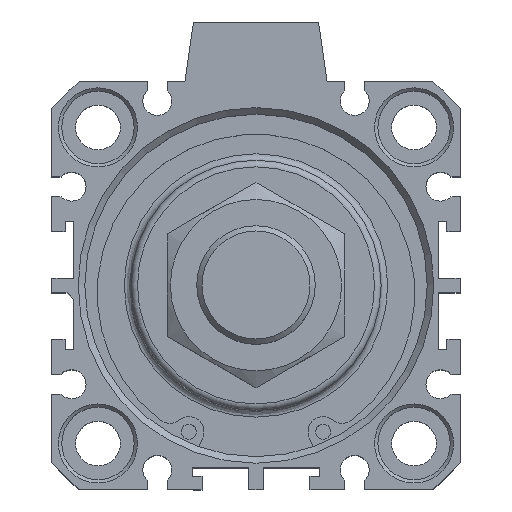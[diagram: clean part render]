
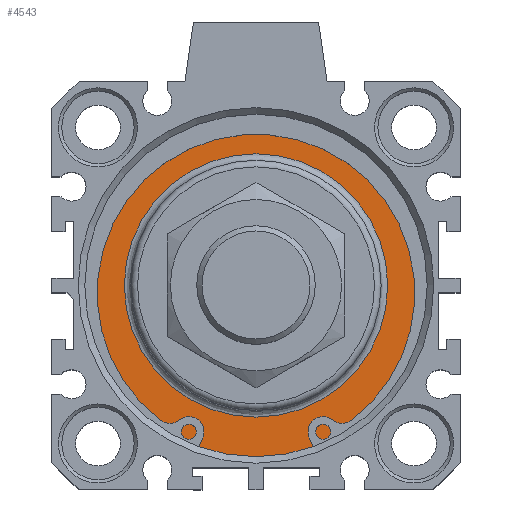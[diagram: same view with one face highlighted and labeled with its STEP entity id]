
A CAD part, top view. The second image highlights one B-rep face of the part: STEP entity #4543.
In plain terms, the highlighted planar face has unit normal (0, 0, 1).
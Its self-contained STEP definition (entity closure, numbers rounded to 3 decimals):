
#4492=CARTESIAN_POINT('',(-0.12,20.837,34.3));
#4493=VERTEX_POINT('',#4492);
#4494=CARTESIAN_POINT('',(-0.12,0.837,34.3));
#4495=DIRECTION('',(0.0,0.0,1.0));
#4496=DIRECTION('',(0.0,-1.0,0.0));
#4497=AXIS2_PLACEMENT_3D('',#4494,#4495,#4496);
#4498=CIRCLE('',#4497,20.0);
#4499=EDGE_CURVE('',#4493,#4493,#4498,.T.);
#4524=CARTESIAN_POINT('',(-0.12,23.337,34.3));
#4525=DIRECTION('',(0.0,0.0,1.0));
#4526=DIRECTION('',(1.0,0.0,0.0));
#4527=AXIS2_PLACEMENT_3D('',#4524,#4525,#4526);
#4528=PLANE('',#4527);
#4529=CARTESIAN_POINT('',(-0.12,26.837,34.3));
#4530=VERTEX_POINT('',#4529);
#4531=CARTESIAN_POINT('',(-0.12,0.837,34.3));
#4532=DIRECTION('',(0.0,0.0,-1.0));
#4533=DIRECTION('',(0.0,1.0,0.0));
#4534=AXIS2_PLACEMENT_3D('',#4531,#4532,#4533);
#4535=CIRCLE('',#4534,26.);
#4536=EDGE_CURVE('',#4530,#4530,#4535,.T.);
#4537=ORIENTED_EDGE('',*,*,#4536,.F.);
#4538=EDGE_LOOP('',(#4537));
#4539=FACE_OUTER_BOUND('',#4538,.T.);
#4540=ORIENTED_EDGE('',*,*,#4499,.F.);
#4541=EDGE_LOOP('',(#4540));
#4542=FACE_BOUND('',#4541,.T.);
#4543=ADVANCED_FACE('',(#4539,#4542),#4528,.T.);
